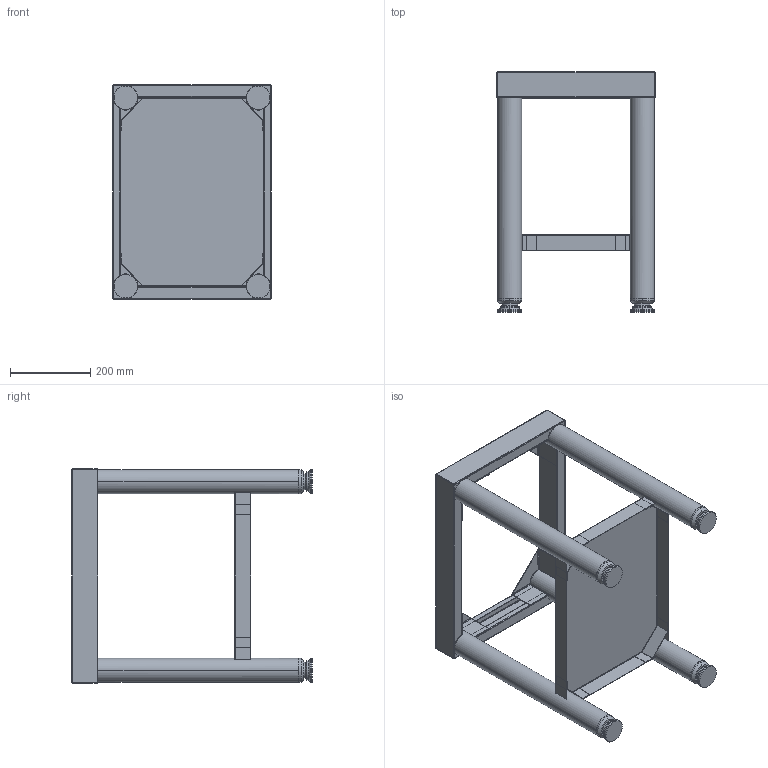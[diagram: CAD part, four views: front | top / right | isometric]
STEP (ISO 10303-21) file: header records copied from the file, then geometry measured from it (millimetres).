
FILE_DESCRIPTION((''),'2;1');
FILE_NAME('SSK400_EXPORT_STEP','2017-11-23T',('r.avril'),(''),'PRO/ENGINEER BY PARAMETRIC TECHNOLOGY CORPORATION, 2014200','PRO/ENGINEER BY PARAMETRIC TECHNOLOGY CORPORATION, 2014200','');
FILE_SCHEMA(('AP203_CONFIGURATION_CONTROLLED_3D_DESIGN_OF_MECHANICAL_PARTS_AND_ASSEMBLIES_MIM_LF { 1 0 10303 403 2 1 2 }'));
Length unit declared in the file: millimetre
Products named in the file (1): SSK400_EXPORT_STEP
Bounding box: 395 x 600 x 535 mm (x, y, z)
Volume: 1849465.9 mm3; surface area: 2032072.7 mm2
Topology: 14 solids, 14 shells, 383 faces, 944 edges, 584 vertices
Faces by surface type: plane 247, cylinder 88, torus 24, cone 16, sphere 8
Entity records: 12340 total; most frequent: CARTESIAN_POINT 2127, DIRECTION 1993, ORIENTED_EDGE 1888, EDGE_CURVE 944, AXIS2_PLACEMENT_3D 691, VECTOR 608, LINE 608, VERTEX_POINT 584
